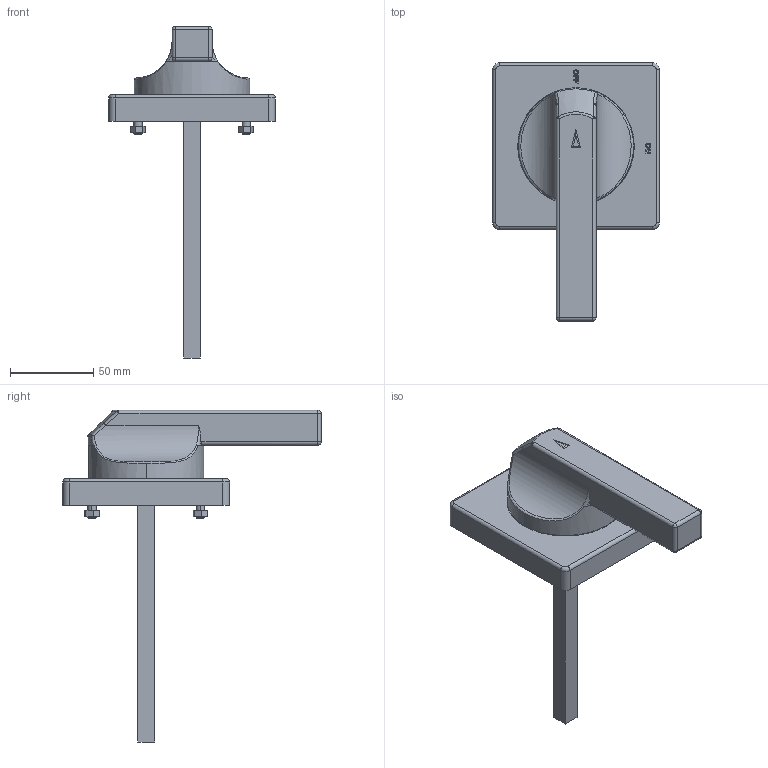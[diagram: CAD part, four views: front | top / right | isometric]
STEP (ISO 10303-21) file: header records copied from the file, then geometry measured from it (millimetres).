
FILE_DESCRIPTION (( 'STEP AP203' ), '1' );
FILE_NAME ('Ðó÷íîé ïîâîðîòíûé ïðèâîä ê ÂÀ-99 250À.STEP', '2018-06-14T08:25:50', ( '' ), ( '' ), 'SwSTEP 2.0', 'SolidWorks 2017', '' );
FILE_SCHEMA (( 'CONFIG_CONTROL_DESIGN' ));
Length unit declared in the file: millimetre
Products named in the file (1): Ðó÷íîé ïîâîðîòíûé ïðèâîä ê ÂÀ-99 250À
Bounding box: 100 x 155 x 199.2 mm (x, y, z)
Volume: 307942.4 mm3; surface area: 45037.2 mm2
Topology: 1 solids, 1 shells, 182 faces, 440 edges, 278 vertices
Faces by surface type: plane 91, cylinder 42, bspline 26, cone 11, torus 6, sphere 6
Entity records: 7296 total; most frequent: CARTESIAN_POINT 3144, ORIENTED_EDGE 872, DIRECTION 768, EDGE_CURVE 436, VERTEX_POINT 278, VECTOR 268, LINE 268, AXIS2_PLACEMENT_3D 250
